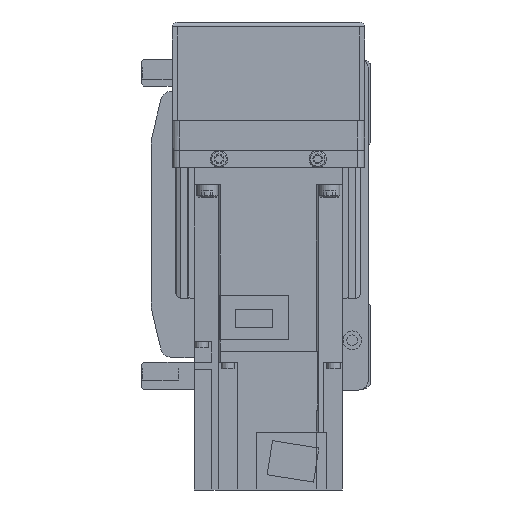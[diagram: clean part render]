
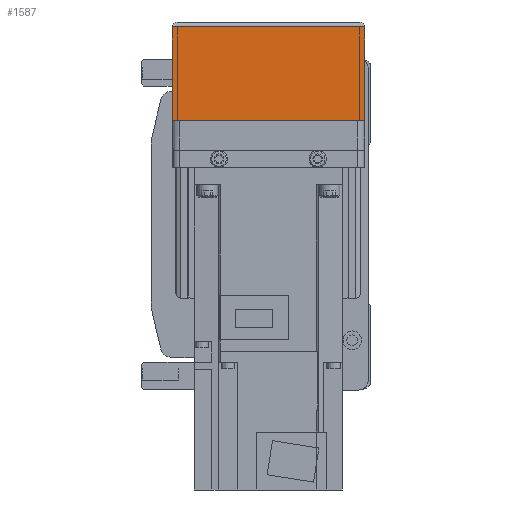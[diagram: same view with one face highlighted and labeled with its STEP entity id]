
A CAD part, left-side view. The second image highlights one B-rep face of the part: STEP entity #1587.
In plain terms, the highlighted planar face has unit normal (-1, 0, 0).
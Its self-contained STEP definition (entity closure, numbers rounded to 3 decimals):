
#1587 = ADVANCED_FACE( '', ( #4139 ), #4140, .F. );
#4139 = FACE_OUTER_BOUND( '', #7953, .T. );
#4140 = PLANE( '', #7954 );
#7953 = EDGE_LOOP( '', ( #12513, #12514, #12515, #12516 ) );
#7954 = AXIS2_PLACEMENT_3D( '', #12517, #12518, #12519 );
#12513 = ORIENTED_EDGE( '', *, *, #21989, .F. );
#12514 = ORIENTED_EDGE( '', *, *, #21990, .F. );
#12515 = ORIENTED_EDGE( '', *, *, #21991, .T. );
#12516 = ORIENTED_EDGE( '', *, *, #21992, .F. );
#12517 = CARTESIAN_POINT( '', ( -158., 36., 7. ) );
#12518 = DIRECTION( '', ( 1., 0., 0. ) );
#12519 = DIRECTION( '', ( 0., 0., -1. ) );
#21989 = EDGE_CURVE( '', #26435, #26436, #26437, .T. );
#21990 = EDGE_CURVE( '', #26438, #26435, #26439, .T. );
#21991 = EDGE_CURVE( '', #26438, #26440, #26441, .T. );
#21992 = EDGE_CURVE( '', #26436, #26440, #26442, .T. );
#26435 = VERTEX_POINT( '', #33138 );
#26436 = VERTEX_POINT( '', #33139 );
#26437 = LINE( '', #33140, #33141 );
#26438 = VERTEX_POINT( '', #33142 );
#26439 = LINE( '', #33143, #33144 );
#26440 = VERTEX_POINT( '', #33145 );
#26441 = LINE( '', #33146, #33147 );
#26442 = LINE( '', #33148, #33149 );
#33138 = CARTESIAN_POINT( '', ( -158., 39., -12.1 ) );
#33139 = CARTESIAN_POINT( '', ( -158., -39., -12.1 ) );
#33140 = CARTESIAN_POINT( '', ( -158., 50., -12.1 ) );
#33141 = VECTOR( '', #40957, 1000. );
#33142 = CARTESIAN_POINT( '', ( -158., 39., -50. ) );
#33143 = CARTESIAN_POINT( '', ( -158., 39., -50. ) );
#33144 = VECTOR( '', #40958, 1000. );
#33145 = CARTESIAN_POINT( '', ( -158., -39., -50. ) );
#33146 = CARTESIAN_POINT( '', ( -158., 40., -50. ) );
#33147 = VECTOR( '', #40959, 1000. );
#33148 = CARTESIAN_POINT( '', ( -158., -39., -12.1 ) );
#33149 = VECTOR( '', #40960, 1000. );
#40957 = DIRECTION( '', ( 0., -1., 0. ) );
#40958 = DIRECTION( '', ( 0., 0., 1. ) );
#40959 = DIRECTION( '', ( 0., -1., 0. ) );
#40960 = DIRECTION( '', ( 0., 0., -1. ) );
